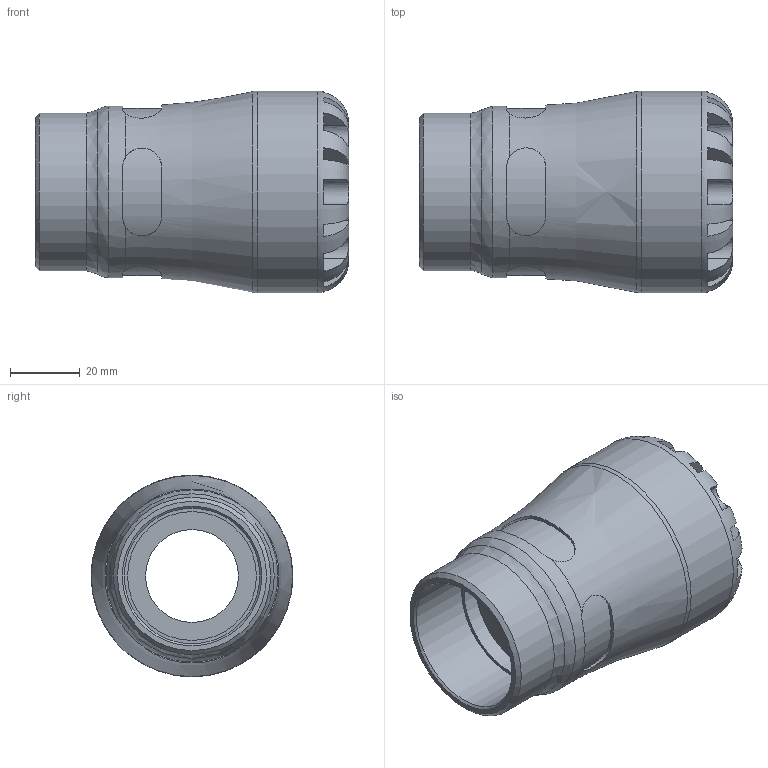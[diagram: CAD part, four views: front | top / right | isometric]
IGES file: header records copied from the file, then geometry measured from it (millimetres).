
Global section: file name: 1003G0032013_1903G0032013.ipt; native system: Autodesk Inventor 2015; preprocessor: unknown; author: KIM; date: 20190127.091355; units: millimetre
Bounding box: 90 x 58 x 58 mm (x, y, z)
Volume: 107264.4 mm3; surface area: 28339 mm2
Topology: 1 solids, 1 shells, 104 faces, 279 edges, 180 vertices
Faces by surface type: plane 61, revolution 27, cylinder 15, cone 1
Full cylindrical faces by diameter (mm): 45.24 x1, 49.3 x1, 58 x1
